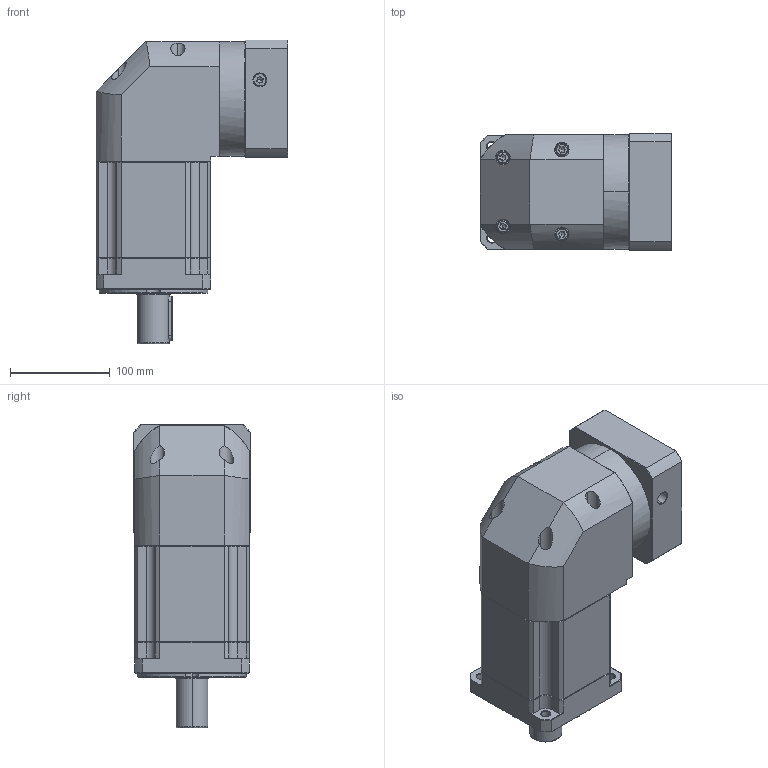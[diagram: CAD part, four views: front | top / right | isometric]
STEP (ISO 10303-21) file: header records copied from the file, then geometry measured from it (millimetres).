
FILE_DESCRIPTION (( 'STEP AP214' ), '1' );
FILE_NAME ('ZBR115A-D32-L3-P2-22-95-115-M8.step', '2023-08-26T12:40:38', ( '' ), ( '' ), 'SwSTEP 2.0', 'SolidWorks 2016', '' );
FILE_SCHEMA (( 'AUTOMOTIVE_DESIGN' ));
Length unit declared in the file: millimetre
Products named in the file (1): ZBR115A-D32-L3-P2-22-95-115-M8
Bounding box: 192.4 x 118 x 305 mm (x, y, z)
Volume: 3634285.5 mm3; surface area: 271751.8 mm2
Topology: 6 solids, 6 shells, 2381 faces, 6235 edges, 3958 vertices
Faces by surface type: plane 1139, cylinder 439, bspline 425, cone 370, torus 8
Entity records: 128381 total; most frequent: CARTESIAN_POINT 47227, ORIENTED_EDGE 12410, DIRECTION 9785, EDGE_CURVE 6205, LINE 3991, VECTOR 3991, VERTEX_POINT 3958, AXIS2_PLACEMENT_3D 2897
